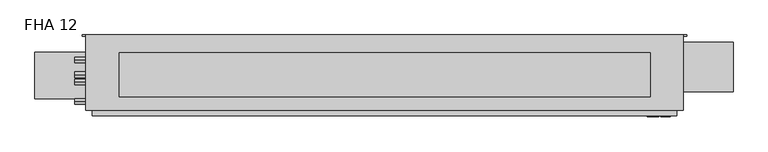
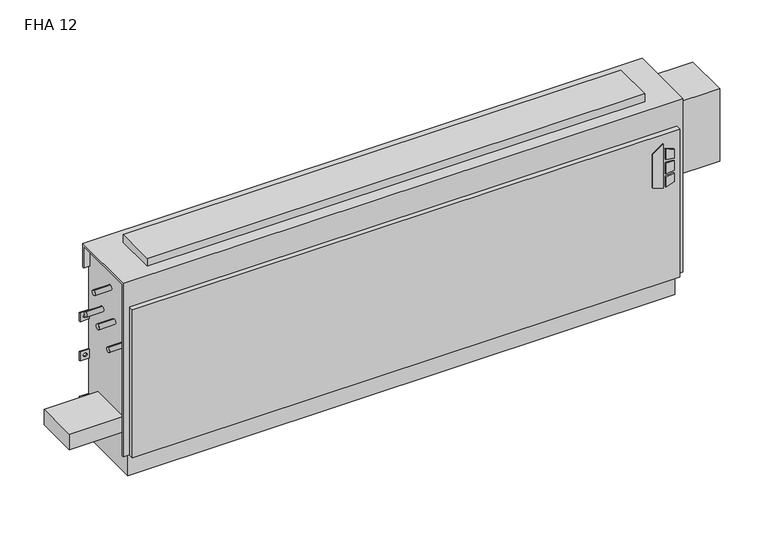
"""IFC4 building model written with IfcOpenShell, lengths in millimetres: proxy geometry, Vertical_Fan_Coil_Unit_-_FHA_-_IEC_-_4-Pipe_TS-FR_LH_2022 : FHA 12."""

from ifc_helpers import new_model, si_unit, point, frame, frame_2d, origin, place, context, project, spatial, polyline, circle_curve, trimmed, segment, composite_curve, outline, extrude, source, transform, mapped, element, save
from ifc_brep_helpers import plane_surface, revolved_surface, advanced_brep


def fha_12_c1f296c9(model_context):
    return source(origin(), model_context, "Body", "SolidModel", [
        extrude(outline(polyline([(391.6086829, 906.5368862), (381.6606126, 938.7102728), (523.831537, 938.7102728), (500.8095309, 906.5368862), (391.6086829, 906.5368862)])), frame((0.0, 9.525, 0.0), z_axis=(0.0, 1.0, 0.0), x_axis=(0.0, 0.0, 1.0)), (0.0, 0.0, 1.0), 3.175),
        extrude(outline(polyline([(470.6079683, 945.4686058), (467.4055757, 971.55), (496.6344168, 971.55), (504.6988318, 945.4686058), (470.6079683, 945.4686058)])), frame((0.0, 9.525, 0.0), z_axis=(0.0, 1.0, 0.0), x_axis=(0.0, 0.0, 1.0)), (0.0, 0.0, 1.0), 3.175),
        extrude(outline(polyline([(418.7444414, 971.55), (415.0789404, 945.4686058), (381.6606126, 945.4686058), (390.2948498, 971.55), (418.7444414, 971.55)])), frame((0.0, 9.525, 0.0), z_axis=(0.0, 1.0, 0.0), x_axis=(0.0, 0.0, 1.0)), (0.0, 0.0, 1.0), 3.175),
        extrude(outline(polyline([(458.0596028, 971.55), (460.3414292, 945.4686058), (424.4038806, 945.4686058), (427.1451456, 971.55), (458.0596028, 971.55)])), frame((0.0, 9.525, 0.0), z_axis=(0.0, 1.0, 0.0), x_axis=(0.0, 0.0, 1.0)), (0.0, 0.0, 1.0), 3.175),
        extrude(outline(composite_curve([segment(trimmed(circle_curve(frame_2d((-749.3, 128.5875)), 9.525), [point((-758.825, 128.5875))], [point((-739.775, 128.5875))], False, "CARTESIAN"), True, "CONTINUOUS"), segment(trimmed(circle_curve(frame_2d((-749.3, 128.5875)), 9.525), [point((-739.775, 128.5875))], [point((-758.825, 128.5875))], False, "CARTESIAN"), True, "CONTINUOUS")], self_intersect=False)), frame((0.0, 0.0, 101.6), z_axis=(0.0, 0.0, 1.0), x_axis=(1.0, 0.0, 0.0)), (0.0, 0.0, 1.0), 25.4),
        extrude(outline(polyline([(-850.9, 61.9125), (-850.9, 195.2625), (-685.8, 195.2625), (-685.8, 61.9125), (-850.9, 61.9125)])), frame((0.0, 0.0, 127.0), z_axis=(0.0, 0.0, 1.0), x_axis=(1.0, 0.0, 0.0)), (0.0, 0.0, 1.0), 50.8),
        extrude(outline(polyline([(914.4, 193.675), (914.4, 66.675), (-609.6, 66.675), (-609.6, 193.675), (914.4, 193.675)])), frame((0.0, 0.0, 635.0), z_axis=(0.0, 0.0, 1.0), x_axis=(1.0, 0.0, 0.0)), (0.0, 0.0, 1.0), 25.4),
        extrude(outline(composite_curve([segment(trimmed(circle_curve(frame_2d((109.0168, 457.2)), 7.9375), [point((109.0168, 465.1375))], [point((109.0168, 449.2625))], False, "CARTESIAN"), True, "CONTINUOUS"), segment(trimmed(circle_curve(frame_2d((109.0168, 457.2)), 7.9375), [point((109.0168, 449.2625))], [point((109.0168, 465.1375))], False, "CARTESIAN"), True, "CONTINUOUS")], self_intersect=False)), frame((-736.6, 0.0, 0.0), z_axis=(1.0, 0.0, 0.0), x_axis=(0.0, 1.0, 0.0)), (0.0, 0.0, 1.0), 50.8),
        extrude(outline(composite_curve([segment(trimmed(circle_curve(frame_2d((172.085, 460.0194)), 7.9375), [point((172.085, 467.9569))], [point((172.085, 452.0819))], False, "CARTESIAN"), True, "CONTINUOUS"), segment(trimmed(circle_curve(frame_2d((172.085, 460.0194)), 7.9375), [point((172.085, 452.0819))], [point((172.085, 467.9569))], False, "CARTESIAN"), True, "CONTINUOUS")], self_intersect=False)), frame((-736.6, 0.0, 0.0), z_axis=(1.0, 0.0, 0.0), x_axis=(0.0, 1.0, 0.0)), (0.0, 0.0, 1.0), 50.8),
        extrude(outline(composite_curve([segment(trimmed(circle_curve(frame_2d((130.175, 554.99)), 7.9502), [point((130.175, 562.9402))], [point((130.175, 547.0398))], False, "CARTESIAN"), True, "CONTINUOUS"), segment(trimmed(circle_curve(frame_2d((130.175, 554.99)), 7.9502), [point((130.175, 547.0398))], [point((130.175, 562.9402))], False, "CARTESIAN"), True, "CONTINUOUS")], self_intersect=False)), frame((-736.6, 0.0, 0.0), z_axis=(1.0, 0.0, 0.0), x_axis=(0.0, 1.0, 0.0)), (0.0, 0.0, 1.0), 50.8),
        extrude(outline(composite_curve([segment(trimmed(circle_curve(frame_2d((53.975, 416.56)), 7.9502), [point((53.975, 424.5102))], [point((53.975, 408.6098))], False, "CARTESIAN"), True, "CONTINUOUS"), segment(trimmed(circle_curve(frame_2d((53.975, 416.56)), 7.9502), [point((53.975, 408.6098))], [point((53.975, 424.5102))], False, "CARTESIAN"), True, "CONTINUOUS")], self_intersect=False)), frame((-736.6, 0.0, 0.0), z_axis=(1.0, 0.0, 0.0), x_axis=(0.0, 1.0, 0.0)), (0.0, 0.0, 1.0), 50.8),
        extrude(outline(polyline([(1152.525, 223.266), (1152.525, 81.534), (990.6, 81.534), (990.6, 223.266), (1152.525, 223.266)])), frame((0.0, 0.0, 349.25), z_axis=(0.0, 0.0, 1.0), x_axis=(1.0, 0.0, 0.0)), (0.0, 0.0, 1.0), 234.95),
        advanced_brep(
        [(1009.65, 244.475, 635.0), (-704.85, 244.475, 635.0), (-704.85, 28.575, 635.0), (1009.65, 28.575, 635.0), (-685.8, 244.475, 0.0), (990.6, 244.475, 0.0), (990.6, 38.1, 0.0), (-685.8, 38.1, 0.0), (1009.65, 244.475, 558.8), (990.6, 244.475, 558.8), (990.6, 244.475, 414.3375), (1019.175, 244.475, 414.3375), (1019.175, 244.475, 385.7625), (990.6, 244.475, 385.7625), (990.6, 244.475, 287.3375), (1019.175, 244.475, 287.3375), (1019.175, 244.475, 258.7625), (990.6, 244.475, 258.7625), (990.6, 244.475, 141.2875), (1019.175, 244.475, 141.2875), (1019.175, 244.475, 112.7125), (990.6, 244.475, 112.7125), (-685.8, 244.475, 112.7125), (-714.375, 244.475, 112.7125), (-714.375, 244.475, 141.2875), (-685.8, 244.475, 141.2875), (-685.8, 244.475, 258.7625), (-714.375, 244.475, 258.7625), (-714.375, 244.475, 287.3375), (-685.8, 244.475, 287.3375), (-685.8, 244.475, 385.7625), (-714.375, 244.475, 385.7625), (-714.375, 244.475, 414.3375), (-685.8, 244.475, 414.3375), (-685.8, 244.475, 558.8), (-704.85, 244.475, 558.8), (1008.8626, 244.475, 127.0), (997.7374, 244.475, 127.0), (-692.9374, 244.475, 127.0), (-704.0626, 244.475, 127.0), (1008.8626, 244.475, 273.05), (997.7374, 244.475, 273.05), (-692.9374, 244.475, 273.05), (-704.0626, 244.475, 273.05), (1008.8626, 244.475, 400.05), (997.7374, 244.475, 400.05), (-692.9374, 244.475, 400.05), (-704.0626, 244.475, 400.05), (-704.85, 238.125, 558.8), (-704.85, 238.125, 628.65), (-704.85, 34.925, 628.65), (-704.85, 34.925, 73.025), (-704.85, 28.575, 73.025), (990.6, 12.7, 552.45), (-685.8, 12.7, 552.45), (-685.8, 12.7, 73.025), (990.6, 12.7, 73.025), (1009.65, 28.575, 73.025), (1009.65, 34.925, 73.025), (1009.65, 34.925, 628.65), (1009.65, 238.125, 628.65), (1009.65, 238.125, 558.8), (-685.8, 28.575, 73.025), (-685.8, 28.575, 552.45), (990.6, 28.575, 552.45), (990.6, 28.575, 73.025), (-685.8, 34.925, 73.025), (-685.8, 38.1, 73.025), (990.6, 38.1, 73.025), (990.6, 34.925, 73.025), (990.6, 241.3, 112.7125), (990.6, 241.3, 141.2875), (990.6, 241.3, 258.7625), (990.6, 241.3, 287.3375), (990.6, 241.3, 385.7625), (990.6, 241.3, 414.3375), (990.6, 238.125, 558.8), (990.6, 238.125, 628.65), (990.6, 34.925, 628.65), (-685.8, 34.925, 628.65), (-685.8, 238.125, 628.65), (-685.8, 238.125, 558.8), (-685.8, 241.3, 414.3375), (-685.8, 241.3, 385.7625), (-685.8, 241.3, 287.3375), (-685.8, 241.3, 258.7625), (-685.8, 241.3, 141.2875), (-685.8, 241.3, 112.7125), (1019.175, 241.3, 112.7125), (1019.175, 241.3, 141.2875), (997.7374, 241.3, 127.0), (1008.8626, 241.3, 127.0), (1019.175, 241.3, 258.7625), (1019.175, 241.3, 287.3375), (997.7374, 241.3, 273.05), (1008.8626, 241.3, 273.05), (1019.175, 241.3, 385.7625), (1019.175, 241.3, 414.3375), (997.7374, 241.3, 400.05), (1008.8626, 241.3, 400.05), (-714.375, 241.3, 141.2875), (-714.375, 241.3, 112.7125), (-704.0626, 241.3, 127.0), (-692.9374, 241.3, 127.0), (-714.375, 241.3, 287.3375), (-714.375, 241.3, 258.7625), (-704.0626, 241.3, 273.05), (-692.9374, 241.3, 273.05), (-714.375, 241.3, 414.3375), (-714.375, 241.3, 385.7625), (-704.0626, 241.3, 400.05), (-692.9374, 241.3, 400.05)],
        [
            (0, 1),
            (1, 2),
            (2, 3),
            (3, 0),
            (4, 5),
            (5, 6),
            (6, 7),
            (7, 4),
            (0, 8),
            (8, 9),
            (9, 10),
            (10, 11),
            (11, 12),
            (12, 13),
            (13, 14),
            (14, 15),
            (15, 16),
            (16, 17),
            (17, 18),
            (18, 19),
            (19, 20),
            (20, 21),
            (21, 5),
            (4, 22),
            (22, 23),
            (23, 24),
            (24, 25),
            (25, 26),
            (26, 27),
            (27, 28),
            (28, 29),
            (29, 30),
            (30, 31),
            (31, 32),
            (32, 33),
            (33, 34),
            (34, 35),
            (35, 1),
            (36, 37, circle_curve(frame((1003.3, 244.475, 127.0), z_axis=(0.0, -1.0, 0.0), x_axis=(-1.0, 0.0, 0.0)), 5.5626)),
            (37, 36, circle_curve(frame((1003.3, 244.475, 127.0), z_axis=(0.0, -1.0, 0.0), x_axis=(-1.0, 0.0, 0.0)), 5.5626)),
            (38, 39, circle_curve(frame((-698.5, 244.475, 127.0), z_axis=(0.0, -1.0, 0.0), x_axis=(-1.0, 0.0, 0.0)), 5.5626)),
            (39, 38, circle_curve(frame((-698.5, 244.475, 127.0), z_axis=(0.0, -1.0, 0.0), x_axis=(-1.0, 0.0, 0.0)), 5.5626)),
            (40, 41, circle_curve(frame((1003.3, 244.475, 273.05), z_axis=(0.0, -1.0, 0.0), x_axis=(-1.0, 0.0, 0.0)), 5.5626)),
            (41, 40, circle_curve(frame((1003.3, 244.475, 273.05), z_axis=(0.0, -1.0, 0.0), x_axis=(-1.0, 0.0, 0.0)), 5.5626)),
            (42, 43, circle_curve(frame((-698.5, 244.475, 273.05), z_axis=(0.0, -1.0, 0.0), x_axis=(-1.0, 0.0, 0.0)), 5.5626)),
            (43, 42, circle_curve(frame((-698.5, 244.475, 273.05), z_axis=(0.0, -1.0, 0.0), x_axis=(-1.0, 0.0, 0.0)), 5.5626)),
            (44, 45, circle_curve(frame((1003.3, 244.475, 400.05), z_axis=(0.0, -1.0, 0.0), x_axis=(-1.0, 0.0, 0.0)), 5.5626)),
            (45, 44, circle_curve(frame((1003.3, 244.475, 400.05), z_axis=(0.0, -1.0, 0.0), x_axis=(-1.0, 0.0, 0.0)), 5.5626)),
            (46, 47, circle_curve(frame((-698.5, 244.475, 400.05), z_axis=(0.0, -1.0, 0.0), x_axis=(-1.0, 0.0, 0.0)), 5.5626)),
            (47, 46, circle_curve(frame((-698.5, 244.475, 400.05), z_axis=(0.0, -1.0, 0.0), x_axis=(-1.0, 0.0, 0.0)), 5.5626)),
            (35, 48),
            (48, 49),
            (49, 50),
            (50, 51),
            (51, 52),
            (52, 2),
            (53, 54),
            (54, 55),
            (55, 56),
            (56, 53),
            (3, 57),
            (57, 58),
            (58, 59),
            (59, 60),
            (60, 61),
            (61, 8),
            (52, 62),
            (62, 63),
            (63, 64),
            (64, 65),
            (65, 57),
            (53, 64),
            (63, 54),
            (55, 62),
            (51, 66),
            (66, 67),
            (67, 68),
            (68, 69),
            (69, 58),
            (65, 56),
            (6, 68),
            (67, 7),
            (21, 70),
            (70, 71),
            (71, 18),
            (17, 72),
            (72, 73),
            (73, 14),
            (13, 74),
            (74, 75),
            (75, 10),
            (9, 76),
            (76, 77),
            (77, 78),
            (78, 69),
            (66, 79),
            (79, 80),
            (80, 81),
            (81, 34),
            (33, 82),
            (82, 83),
            (83, 30),
            (29, 84),
            (84, 85),
            (85, 26),
            (25, 86),
            (86, 87),
            (87, 22),
            (76, 61),
            (60, 77),
            (78, 59),
            (50, 79),
            (81, 48),
            (80, 49),
            (70, 88),
            (88, 89),
            (89, 71),
            (90, 91, circle_curve(frame((1003.3, 241.3, 127.0), z_axis=(0.0, 1.0, 0.0), x_axis=(-1.0, 0.0, 0.0)), 5.5626)),
            (91, 90, circle_curve(frame((1003.3, 241.3, 127.0), z_axis=(0.0, 1.0, 0.0), x_axis=(-1.0, 0.0, 0.0)), 5.5626)),
            (92, 93),
            (93, 73),
            (72, 92),
            (94, 95, circle_curve(frame((1003.3, 241.3, 273.05), z_axis=(0.0, 1.0, 0.0), x_axis=(-1.0, 0.0, 0.0)), 5.5626)),
            (95, 94, circle_curve(frame((1003.3, 241.3, 273.05), z_axis=(0.0, 1.0, 0.0), x_axis=(-1.0, 0.0, 0.0)), 5.5626)),
            (96, 97),
            (97, 75),
            (74, 96),
            (98, 99, circle_curve(frame((1003.3, 241.3, 400.05), z_axis=(0.0, 1.0, 0.0), x_axis=(-1.0, 0.0, 0.0)), 5.5626)),
            (99, 98, circle_curve(frame((1003.3, 241.3, 400.05), z_axis=(0.0, 1.0, 0.0), x_axis=(-1.0, 0.0, 0.0)), 5.5626)),
            (100, 101),
            (101, 87),
            (86, 100),
            (102, 103, circle_curve(frame((-698.5, 241.3, 127.0), z_axis=(0.0, 1.0, 0.0), x_axis=(-1.0, 0.0, 0.0)), 5.5626)),
            (103, 102, circle_curve(frame((-698.5, 241.3, 127.0), z_axis=(0.0, 1.0, 0.0), x_axis=(-1.0, 0.0, 0.0)), 5.5626)),
            (84, 104),
            (104, 105),
            (105, 85),
            (106, 107, circle_curve(frame((-698.5, 241.3, 273.05), z_axis=(0.0, 1.0, 0.0), x_axis=(-1.0, 0.0, 0.0)), 5.5626)),
            (107, 106, circle_curve(frame((-698.5, 241.3, 273.05), z_axis=(0.0, 1.0, 0.0), x_axis=(-1.0, 0.0, 0.0)), 5.5626)),
            (108, 109),
            (109, 83),
            (82, 108),
            (110, 111, circle_curve(frame((-698.5, 241.3, 400.05), z_axis=(0.0, 1.0, 0.0), x_axis=(-1.0, 0.0, 0.0)), 5.5626)),
            (111, 110, circle_curve(frame((-698.5, 241.3, 400.05), z_axis=(0.0, 1.0, 0.0), x_axis=(-1.0, 0.0, 0.0)), 5.5626)),
            (89, 19),
            (88, 20),
            (16, 92),
            (93, 15),
            (12, 96),
            (97, 11),
            (24, 100),
            (101, 23),
            (105, 27),
            (104, 28),
            (32, 108),
            (109, 31),
            (90, 37),
            (36, 91),
            (102, 39),
            (38, 103),
            (94, 41),
            (40, 95),
            (106, 43),
            (42, 107),
            (98, 45),
            (44, 99),
            (110, 47),
            (46, 111),
        ],
        [
            plane_surface(frame((-704.85, 244.475, 635.0), z_axis=(0.0, 0.0, 1.0), x_axis=(-1.0, 0.0, 0.0))),
            plane_surface(frame((-704.85, 244.475, 0.0), z_axis=(0.0, 0.0, -1.0), x_axis=(1.0, 0.0, 0.0))),
            plane_surface(frame((1009.65, 244.475, 635.0), z_axis=(0.0, 1.0, 0.0), x_axis=(0.0, 0.0, -1.0))),
            plane_surface(frame((-704.85, 244.475, 635.0), z_axis=(-1.0, 0.0, 0.0), x_axis=(0.0, 0.0, -1.0))),
            plane_surface(frame((-704.85, 12.7, 635.0), z_axis=(0.0, -1.0, 0.0), x_axis=(0.0, 0.0, -1.0))),
            plane_surface(frame((1009.65, 12.7, 635.0), z_axis=(1.0, 0.0, 0.0), x_axis=(0.0, 0.0, -1.0))),
            plane_surface(frame((-1263.65, 28.575, 635.0), z_axis=(0.0, -1.0, 0.0), x_axis=(1.0, 0.0, 0.0))),
            plane_surface(frame((-1263.65, 28.575, 552.45), z_axis=(0.0, 0.0, 1.0), x_axis=(1.0, 0.0, 0.0))),
            plane_surface(frame((-704.85, 12.7, 73.025), z_axis=(0.0, 0.0, -1.0), x_axis=(1.0, 0.0, 0.0))),
            plane_surface(frame((-704.85, 38.1, 73.025), z_axis=(0.0, -1.0, 0.0), x_axis=(1.0, 0.0, 0.0))),
            plane_surface(frame((990.6, 28.575, 73.025), z_axis=(1.0, 0.0, 0.0), x_axis=(0.0, -1.0, 0.0))),
            plane_surface(frame((-685.8, 28.575, 552.45), z_axis=(-1.0, 0.0, 0.0), x_axis=(0.0, -1.0, 0.0))),
            plane_surface(frame((990.6, 244.475, 0.0), z_axis=(1.0, 0.0, 0.0), x_axis=(0.0, -1.0, 0.0))),
            plane_surface(frame((-685.8, 244.475, 73.025), z_axis=(-1.0, 0.0, 0.0), x_axis=(0.0, -1.0, 0.0))),
            plane_surface(frame((990.6, 238.125, 628.65), z_axis=(0.0, -1.0, 0.0), x_axis=(1.0, 0.0, 0.0))),
            plane_surface(frame((990.6, 238.125, 558.8), z_axis=(0.0, 0.0, -1.0), x_axis=(1.0, 0.0, 0.0))),
            plane_surface(frame((990.6, 34.925, 73.025), z_axis=(0.0, 1.0, 0.0), x_axis=(1.0, 0.0, 0.0))),
            plane_surface(frame((990.6, 34.925, 628.65), z_axis=(0.0, 0.0, -1.0), x_axis=(1.0, 0.0, 0.0))),
            plane_surface(frame((-685.8, 34.925, 628.65), z_axis=(0.0, 1.0, 0.0), x_axis=(-1.0, 0.0, 0.0))),
            plane_surface(frame((-685.8, 244.475, 558.8), z_axis=(0.0, 0.0, -1.0), x_axis=(-1.0, 0.0, 0.0))),
            plane_surface(frame((-685.8, 238.125, 558.8), z_axis=(0.0, -1.0, 0.0), x_axis=(-1.0, 0.0, 0.0))),
            plane_surface(frame((-685.8, 238.125, 628.65), z_axis=(0.0, 0.0, -1.0), x_axis=(-1.0, 0.0, 0.0))),
            plane_surface(frame((1019.175, 241.3, 141.2875), z_axis=(0.0, -1.0, 0.0), x_axis=(-1.0, 0.0, 0.0))),
            plane_surface(frame((990.6, 244.475, 141.2875), z_axis=(0.0, 0.0, 1.0), x_axis=(0.0, -1.0, 0.0))),
            plane_surface(frame((1019.175, 244.475, 141.2875), z_axis=(1.0, 0.0, 0.0), x_axis=(0.0, -1.0, 0.0))),
            plane_surface(frame((1019.175, 244.475, 112.7125), z_axis=(0.0, 0.0, -1.0), x_axis=(0.0, -1.0, 0.0))),
            plane_surface(frame((1019.175, 244.475, 258.7625), z_axis=(0.0, 0.0, -1.0), x_axis=(0.0, -1.0, 0.0))),
            plane_surface(frame((990.6, 244.475, 287.3375), z_axis=(0.0, 0.0, 1.0), x_axis=(0.0, -1.0, 0.0))),
            plane_surface(frame((1019.175, 244.475, 287.3375), z_axis=(1.0, 0.0, 0.0), x_axis=(0.0, -1.0, 0.0))),
            plane_surface(frame((1019.175, 244.475, 385.7625), z_axis=(0.0, 0.0, -1.0), x_axis=(0.0, -1.0, 0.0))),
            plane_surface(frame((990.6, 244.475, 414.3375), z_axis=(0.0, 0.0, 1.0), x_axis=(0.0, -1.0, 0.0))),
            plane_surface(frame((1019.175, 244.475, 414.3375), z_axis=(1.0, 0.0, 0.0), x_axis=(0.0, -1.0, 0.0))),
            plane_surface(frame((-714.375, 244.475, 141.2875), z_axis=(0.0, 0.0, 1.0), x_axis=(0.0, -1.0, 0.0))),
            plane_surface(frame((-685.8, 244.475, 112.7125), z_axis=(0.0, 0.0, -1.0), x_axis=(0.0, -1.0, 0.0))),
            plane_surface(frame((-714.375, 244.475, 112.7125), z_axis=(-1.0, 0.0, 0.0), x_axis=(0.0, -1.0, 0.0))),
            plane_surface(frame((-685.8, 244.475, 258.7625), z_axis=(0.0, 0.0, -1.0), x_axis=(0.0, -1.0, 0.0))),
            plane_surface(frame((-714.375, 244.475, 258.7625), z_axis=(-1.0, 0.0, 0.0), x_axis=(0.0, -1.0, 0.0))),
            plane_surface(frame((-714.375, 244.475, 287.3375), z_axis=(0.0, 0.0, 1.0), x_axis=(0.0, -1.0, 0.0))),
            plane_surface(frame((-714.375, 244.475, 414.3375), z_axis=(0.0, 0.0, 1.0), x_axis=(0.0, -1.0, 0.0))),
            plane_surface(frame((-685.8, 244.475, 385.7625), z_axis=(0.0, 0.0, -1.0), x_axis=(0.0, -1.0, 0.0))),
            plane_surface(frame((-714.375, 244.475, 385.7625), z_axis=(-1.0, 0.0, 0.0), x_axis=(0.0, -1.0, 0.0))),
            revolved_surface(polyline([(997.7374, 241.3, 127.0), (997.7374, 244.475, 127.0)]), (1003.3, 244.475, 127.0), (0.0, -1.0, 0.0)),
            revolved_surface(polyline([(-704.0626, 241.3, 127.0), (-704.0626, 244.475, 127.0)]), (-698.5, 244.475, 127.0), (0.0, -1.0, 0.0)),
            revolved_surface(polyline([(997.7374, 241.3, 273.05), (997.7374, 244.475, 273.05)]), (1003.3, 244.475, 273.05), (0.0, -1.0, 0.0)),
            revolved_surface(polyline([(-704.0626, 241.3, 273.05), (-704.0626, 244.475, 273.05)]), (-698.5, 244.475, 273.05), (0.0, -1.0, 0.0)),
            revolved_surface(polyline([(997.7374, 241.3, 400.05), (997.7374, 244.475, 400.05)]), (1003.3, 244.475, 400.05), (0.0, -1.0, 0.0)),
            revolved_surface(polyline([(-704.0626, 241.3, 400.05), (-704.0626, 244.475, 400.05)]), (-698.5, 244.475, 400.05), (0.0, -1.0, 0.0)),
        ],
        [
            (0, [[1, 2, 3, 4]]),
            (1, [[5, 6, 7, 8]]),
            (2, [[-1, 9, 10, 11, 12, 13, 14, 15, 16, 17, 18, 19, 20, 21, 22, 23, -5, 24, 25, 26, 27, 28, 29, 30, 31, 32, 33, 34, 35, 36, 37, 38], [39, 40], [41, 42], [43, 44], [45, 46], [47, 48], [49, 50]]),
            (3, [[-2, -38, 51, 52, 53, 54, 55, 56]]),
            (4, [[57, 58, 59, 60]]),
            (5, [[-4, 61, 62, 63, 64, 65, 66, -9]]),
            (6, [[-3, -56, 67, 68, 69, 70, 71, -61]]),
            (7, [[-57, 72, -69, 73]]),
            (8, [[-59, 74, -67, -55, 75, 76, 77, 78, 79, -62, -71, 80]]),
            (9, [[-7, 81, -77, 82]]),
            (10, [[-70, -72, -60, -80]]),
            (11, [[-68, -74, -58, -73]]),
            (12, [[-6, -23, 83, 84, 85, -19, 86, 87, 88, -15, 89, 90, 91, -11, 92, 93, 94, 95, -78, -81]]),
            (13, [[-8, -82, -76, 96, 97, 98, 99, -36, 100, 101, 102, -32, 103, 104, 105, -28, 106, 107, 108, -24]]),
            (14, [[-93, 109, -65, 110]]),
            (15, [[-92, -10, -66, -109]]),
            (16, [[-95, 111, -63, -79]]),
            (17, [[-94, -110, -64, -111]]),
            (18, [[-96, -75, -54, 112]]),
            (19, [[-99, 113, -51, -37]]),
            (20, [[-98, 114, -52, -113]]),
            (21, [[-97, -112, -53, -114]]),
            (22, [[115, 116, 117, -84], [118, 119]]),
            (22, [[120, 121, -87, 122], [123, 124]]),
            (22, [[125, 126, -90, 127], [128, 129]]),
            (22, [[130, 131, -107, 132], [133, 134]]),
            (22, [[135, 136, 137, -104], [138, 139]]),
            (22, [[140, 141, -101, 142], [143, 144]]),
            (23, [[-117, 145, -20, -85]]),
            (24, [[-116, 146, -21, -145]]),
            (25, [[-115, -83, -22, -146]]),
            (26, [[-122, -86, -18, 147]]),
            (27, [[-121, 148, -16, -88]]),
            (28, [[-120, -147, -17, -148]]),
            (29, [[-127, -89, -14, 149]]),
            (30, [[-126, 150, -12, -91]]),
            (31, [[-125, -149, -13, -150]]),
            (32, [[-132, -106, -27, 151]]),
            (33, [[-131, 152, -25, -108]]),
            (34, [[-130, -151, -26, -152]]),
            (35, [[-137, 153, -29, -105]]),
            (36, [[-136, 154, -30, -153]]),
            (37, [[-135, -103, -31, -154]]),
            (38, [[-142, -100, -35, 155]]),
            (39, [[-141, 156, -33, -102]]),
            (40, [[-140, -155, -34, -156]]),
            (41, [[157, -39, 158, -118]]),
            (41, [[-157, -119, -158, -40]]),
            (42, [[159, -41, 160, -133]]),
            (42, [[-159, -134, -160, -42]]),
            (43, [[161, -43, 162, -123]]),
            (43, [[-161, -124, -162, -44]]),
            (44, [[163, -45, 164, -138]]),
            (44, [[-163, -139, -164, -46]]),
            (45, [[165, -47, 166, -128]]),
            (45, [[-165, -129, -166, -48]]),
            (46, [[167, -49, 168, -143]]),
            (46, [[-167, -144, -168, -50]]),
        ],
    ),
    ])


if __name__ == "__main__":
    model = new_model("IFC4")
    model_context = context("Model", 3, world=origin())
    ifc_project = project(units=[si_unit("LENGTHUNIT", "METRE", prefix="MILLI")], contexts=[model_context])
    site = spatial("IfcSite", under=ifc_project)
    building = spatial("IfcBuilding", under=site)
    placement = place(None, origin())
    fha_12_shape = fha_12_c1f296c9(model_context)
    element("IfcBuildingElementProxy", 1, Name="Vertical_Fan_Coil_Unit_-_FHA_-_IEC_-_4-Pipe_TS-FR_LH_2022 : FHA 12", ObjectType="Vertical_Fan_Coil_Unit_-_FHA_-_IEC_-_4-Pipe_TS-FR_LH_2022 : FHA 12", at=placement, inside=building, context=model_context, shape_type="MappedRepresentation", body=[
        mapped(fha_12_shape, transform((0.0, 0.0, 0.0), x_axis=(1.0, 0.0, 0.0), y_axis=(0.0, 1.0, 0.0), z_axis=(0.0, 0.0, 1.0))),
    ])
    save(model, "model.ifc")
